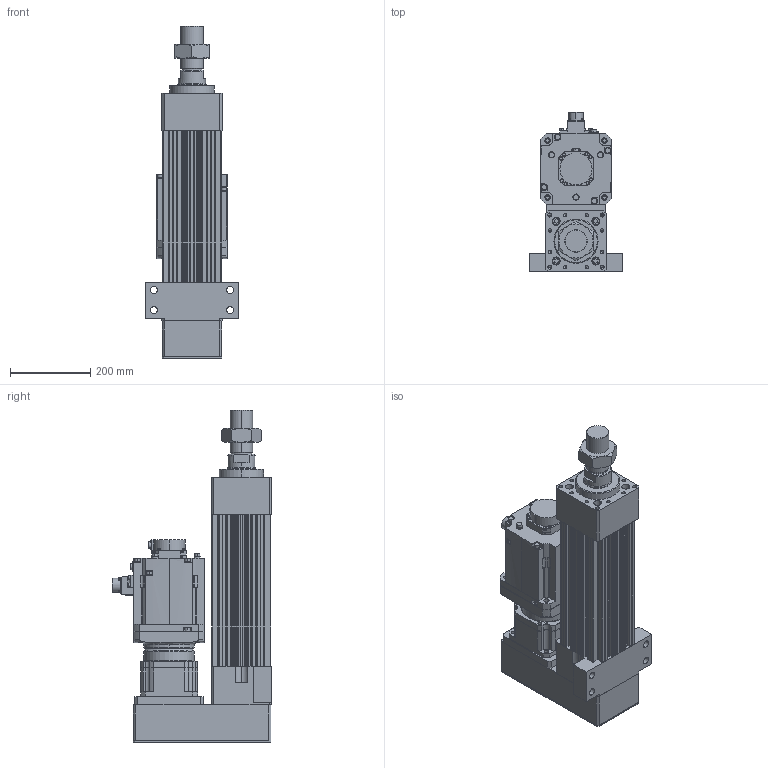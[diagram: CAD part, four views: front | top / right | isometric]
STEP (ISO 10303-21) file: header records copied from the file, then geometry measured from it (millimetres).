
FILE_DESCRIPTION (( 'STEP AP203' ), '1' );
FILE_NAME ('HES150NS(HS)-P100-W050G00-M-FFC.STEP', '2026-06-10T06:38:00', ( 'tms' ), ( '' ), 'SwSTEP 2.0', 'SolidWorks 2013', '' );
FILE_SCHEMA (( 'CONFIG_CONTROL_DESIGN' ));
Length unit declared in the file: millimetre
Products named in the file (9): HG-SR502B; HES150-P-G142; HES150-FFC-100; HES150NS(HS)-P100-W050G00-M-FFC; AB1422; M56X2.0P; HES150-M-ROD-100; AB1421; AB1423
Assembly tree (8 placements, depth 2):
  HES150NS(HS)-P100-W050G00-M-FFC
    HES150-FFC-100
    HES150-M-ROD-100
    M56X2.0P
    HES150-P-G142
    HG-SR502B
    AB1421
    AB1422
    AB1423
Bounding box: 230 x 395.85 x 826 mm (x, y, z)
Volume: 16673673.4 mm3; surface area: 1607934.9 mm2
Topology: 5 solids, 19 shells, 1536 faces, 4000 edges, 2590 vertices
Faces by surface type: cylinder 714, plane 584, cone 156, bspline 76, torus 6
Entity records: 56036 total; most frequent: CARTESIAN_POINT 16912, DIRECTION 8212, ORIENTED_EDGE 7878, EDGE_CURVE 3961, AXIS2_PLACEMENT_3D 3115, VERTEX_POINT 2590, VECTOR 1982, LINE 1982
